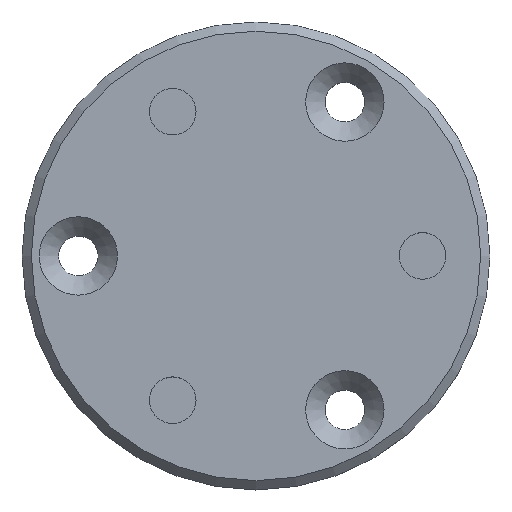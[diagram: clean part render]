
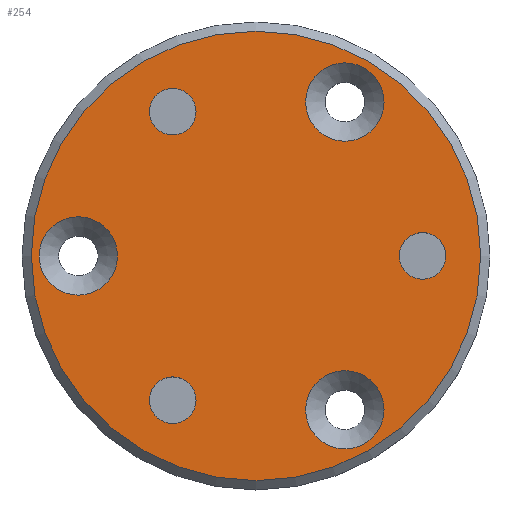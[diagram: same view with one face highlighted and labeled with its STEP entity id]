
A CAD part, top view. The second image highlights one B-rep face of the part: STEP entity #254.
In plain terms, the highlighted planar face has unit normal (0, 0, 1).
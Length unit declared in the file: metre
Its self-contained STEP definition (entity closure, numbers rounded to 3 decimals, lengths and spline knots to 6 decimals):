
#19=PLANE('',#297);
#32=ORIENTED_EDGE('',*,*,#80,.F.);
#33=ORIENTED_EDGE('',*,*,#81,.F.);
#34=ORIENTED_EDGE('',*,*,#82,.F.);
#35=ORIENTED_EDGE('',*,*,#83,.T.);
#36=ORIENTED_EDGE('',*,*,#84,.T.);
#37=ORIENTED_EDGE('',*,*,#85,.T.);
#38=ORIENTED_EDGE('',*,*,#86,.T.);
#80=EDGE_CURVE('',#104,#104,#128,.T.);
#81=EDGE_CURVE('',#105,#105,#129,.T.);
#82=EDGE_CURVE('',#106,#106,#130,.T.);
#83=EDGE_CURVE('',#107,#107,#131,.T.);
#84=EDGE_CURVE('',#108,#108,#132,.T.);
#85=EDGE_CURVE('',#109,#109,#133,.T.);
#86=EDGE_CURVE('',#110,#110,#134,.T.);
#104=VERTEX_POINT('',#448);
#105=VERTEX_POINT('',#450);
#106=VERTEX_POINT('',#452);
#107=VERTEX_POINT('',#454);
#108=VERTEX_POINT('',#456);
#109=VERTEX_POINT('',#458);
#110=VERTEX_POINT('',#460);
#128=CIRCLE('',#298,0.002);
#129=CIRCLE('',#299,0.002);
#130=CIRCLE('',#300,0.002);
#131=CIRCLE('',#301,0.019272);
#132=CIRCLE('',#302,0.00336);
#133=CIRCLE('',#303,0.00336);
#134=CIRCLE('',#304,0.00336);
#152=EDGE_LOOP('',(#32));
#153=EDGE_LOOP('',(#33));
#154=EDGE_LOOP('',(#34));
#155=EDGE_LOOP('',(#35));
#156=EDGE_LOOP('',(#36));
#157=EDGE_LOOP('',(#37));
#158=EDGE_LOOP('',(#38));
#200=FACE_BOUND('',#152,.T.);
#201=FACE_BOUND('',#153,.T.);
#202=FACE_BOUND('',#154,.T.);
#203=FACE_BOUND('',#155,.T.);
#204=FACE_BOUND('',#156,.T.);
#205=FACE_BOUND('',#157,.T.);
#206=FACE_BOUND('',#158,.T.);
#254=ADVANCED_FACE('',(#200,#201,#202,#203,#204,#205,#206),#19,.T.);
#297=AXIS2_PLACEMENT_3D('',#446,#357,#358);
#298=AXIS2_PLACEMENT_3D('',#447,#359,#360);
#299=AXIS2_PLACEMENT_3D('',#449,#361,#362);
#300=AXIS2_PLACEMENT_3D('',#451,#363,#364);
#301=AXIS2_PLACEMENT_3D('',#453,#365,#366);
#302=AXIS2_PLACEMENT_3D('',#455,#367,#368);
#303=AXIS2_PLACEMENT_3D('',#457,#369,#370);
#304=AXIS2_PLACEMENT_3D('',#459,#371,#372);
#357=DIRECTION('',(0.,0.,1.));
#358=DIRECTION('',(1.,0.,0.));
#359=DIRECTION('',(0.,0.,1.));
#360=DIRECTION('',(1.,0.,0.));
#361=DIRECTION('',(0.,0.,1.));
#362=DIRECTION('',(1.,0.,0.));
#363=DIRECTION('',(0.,0.,1.));
#364=DIRECTION('',(1.,0.,0.));
#365=DIRECTION('',(0.,0.,1.));
#366=DIRECTION('',(1.,0.,0.));
#367=DIRECTION('',(0.,0.,-1.));
#368=DIRECTION('',(-1.,0.,0.));
#369=DIRECTION('',(0.,0.,-1.));
#370=DIRECTION('',(-1.,0.,0.));
#371=DIRECTION('',(0.,0.,-1.));
#372=DIRECTION('',(-1.,0.,0.));
#446=CARTESIAN_POINT('',(0.,0.,0.061991));
#447=CARTESIAN_POINT('',(0.014288,0.,0.061991));
#448=CARTESIAN_POINT('',(0.016287,0.,0.061991));
#449=CARTESIAN_POINT('',(-0.007144,-0.012373,0.061991));
#450=CARTESIAN_POINT('',(-0.005144,-0.012373,0.061991));
#451=CARTESIAN_POINT('',(-0.007144,0.012373,0.061991));
#452=CARTESIAN_POINT('',(-0.005144,0.012373,0.061991));
#453=CARTESIAN_POINT('',(0.,0.,0.061991));
#454=CARTESIAN_POINT('',(0.019272,0.,0.061991));
#455=CARTESIAN_POINT('',(-0.01524,0.,0.061991));
#456=CARTESIAN_POINT('',(-0.0186,0.,0.061991));
#457=CARTESIAN_POINT('',(0.00762,0.013198,0.061991));
#458=CARTESIAN_POINT('',(0.00426,0.013198,0.061991));
#459=CARTESIAN_POINT('',(0.00762,-0.013198,0.061991));
#460=CARTESIAN_POINT('',(0.00426,-0.013198,0.061991));
